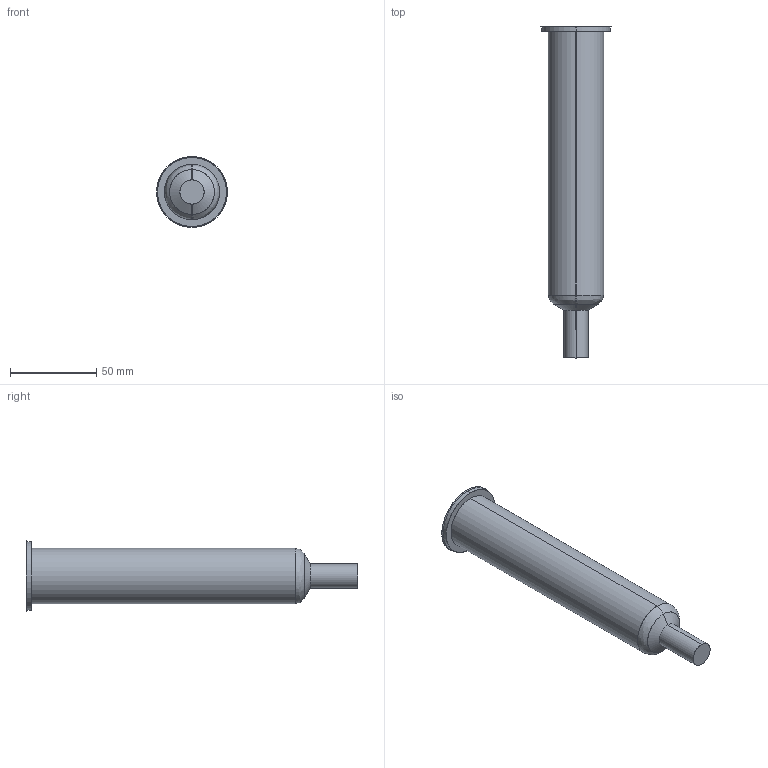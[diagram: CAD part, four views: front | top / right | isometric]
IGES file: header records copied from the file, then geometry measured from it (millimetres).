
Start section: SolidWorks IGES file using analytic representation for surfaces
Global section: file name: C:\Documents and Settings\ws-20\Desktop\TEMPORANEA\Sede UGBE4004-M-A C-164 L-184 P-25.IGS; native system: SolidWorks 2012; preprocessor: SolidWorks 2012; author: ws-20; date: 120306.141618; units: millimetre
Bounding box: 41 x 192.42 x 41 mm (x, y, z)
Surface area: 19956.6 mm2 (no closed solid volume)
Topology: 0 solids, 0 shells, 15 faces, 272 edges, 272 vertices
Faces by surface type: revolution 10, bspline 5
